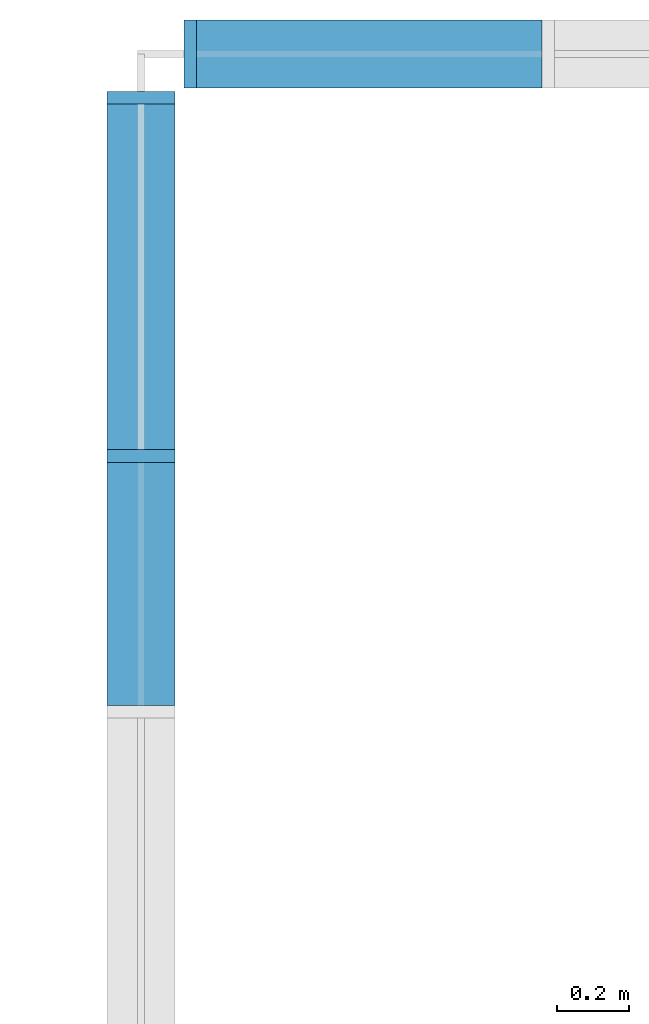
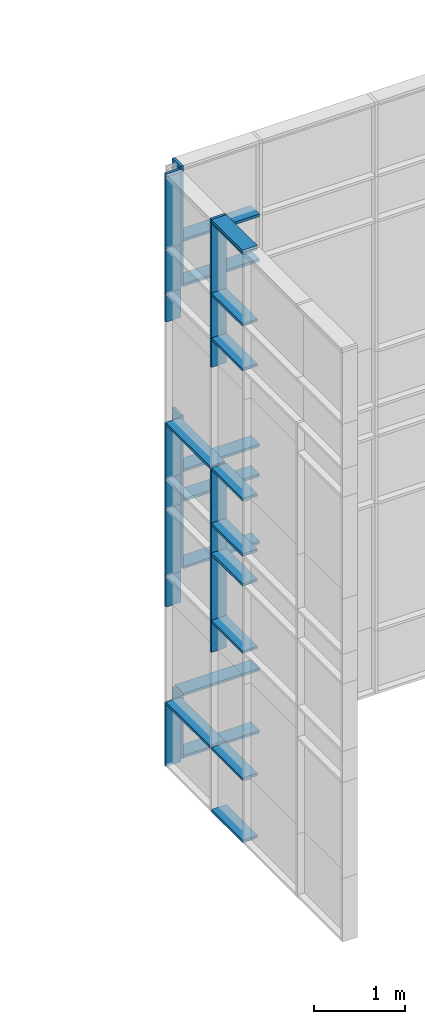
# One storey, part 19 of 73: 43 members, 2 elements without a shape of their own.
"""IFC2X3 building model written with IfcOpenShell, lengths in millimetres."""

from ifc_helpers import new_model, entity, si_unit, converted_unit, derived_unit, direction, frame, origin, origin_2d_with_axis, place, context, subcontext, project, spatial, rectangle, extrude, source, transform, mapped, material, type_object, type_shapes, element, aggregate, save


model = new_model("IFC2X3")

# Units and contexts
model_context = context("Model", 3, precision=0.01, world=origin(), true_north=direction((6.12303176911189e-17, 1.0)))
body_context = subcontext(model_context, "Body", "Model", "MODEL_VIEW")
ifc_project = project(units=[si_unit("LENGTHUNIT", "METRE", prefix="MILLI"), si_unit("AREAUNIT", "SQUARE_METRE"), si_unit("VOLUMEUNIT", "CUBIC_METRE"), converted_unit("PLANEANGLEUNIT", "DEGREE", entity("IfcRatioMeasure", 0.0174532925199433), si_unit("PLANEANGLEUNIT", "RADIAN"), dimensions=[0, 0, 0, 0, 0, 0, 0]), si_unit("MASSUNIT", "GRAM", prefix="KILO"), derived_unit("MASSDENSITYUNIT", [(si_unit("MASSUNIT", "GRAM", prefix="KILO"), 1), (si_unit("LENGTHUNIT", "METRE"), -3)]), si_unit("TIMEUNIT", "SECOND"), si_unit("FREQUENCYUNIT", "HERTZ"), si_unit("THERMODYNAMICTEMPERATUREUNIT", "DEGREE_CELSIUS"), derived_unit("THERMALTRANSMITTANCEUNIT", [(si_unit("MASSUNIT", "GRAM", prefix="KILO"), 1), (si_unit("THERMODYNAMICTEMPERATUREUNIT", "KELVIN"), -1), (si_unit("TIMEUNIT", "SECOND"), -3)]), derived_unit("VOLUMETRICFLOWRATEUNIT", [(si_unit("LENGTHUNIT", "METRE"), 3), (si_unit("TIMEUNIT", "SECOND"), -1)]), si_unit("ELECTRICCURRENTUNIT", "AMPERE"), si_unit("ELECTRICVOLTAGEUNIT", "VOLT"), si_unit("POWERUNIT", "WATT"), si_unit("FORCEUNIT", "NEWTON", prefix="KILO"), si_unit("ILLUMINANCEUNIT", "LUX"), si_unit("LUMINOUSFLUXUNIT", "LUMEN"), si_unit("LUMINOUSINTENSITYUNIT", "CANDELA"), derived_unit("USERDEFINED", [(si_unit("MASSUNIT", "GRAM", prefix="KILO"), -1), (si_unit("LENGTHUNIT", "METRE"), -2), (si_unit("TIMEUNIT", "SECOND"), 3), (si_unit("LUMINOUSFLUXUNIT", "LUMEN"), 1)]), derived_unit("LINEARVELOCITYUNIT", [(si_unit("LENGTHUNIT", "METRE"), 1), (si_unit("TIMEUNIT", "SECOND"), -1)]), si_unit("PRESSUREUNIT", "PASCAL"), derived_unit("USERDEFINED", [(si_unit("LENGTHUNIT", "METRE"), -2), (si_unit("MASSUNIT", "GRAM", prefix="KILO"), 1), (si_unit("TIMEUNIT", "SECOND"), -2)])], contexts=[model_context])

# Site, building, storey
site_placement = place(None, frame((-151.875543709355, 2715.0, 0.0)))
site = spatial("IfcSite", under=ifc_project, at=site_placement, Name="Surface", CompositionType="ELEMENT")
building_placement = place(site_placement, origin())
building = spatial("IfcBuilding", under=site, at=building_placement, CompositionType="ELEMENT")
storey_placement = place(building_placement, frame((0.0, 0.0, 6730.43000000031)))
storey = spatial("IfcBuildingStorey", under=building, at=storey_placement, Name="3 korrus", CompositionType="ELEMENT", Elevation=6730.43000000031)

# Curtain wall, members
curtain_wall_type = type_object("IfcCurtainWallType", Name="Curtain Wall:Klaasfassaad2", PredefinedType="NOTDEFINED")
curtain_wall_1_placement = place(storey_placement, frame((0.0, 0.0, -6730.43000000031)))
curtain_wall_1 = element("IfcCurtainWall", 1, at=curtain_wall_1_placement, inside=storey, type_object=curtain_wall_type, Name="Curtain Wall:Klaasfassaad2", ObjectType="Curtain Wall:Klaasfassaad2")
ifc_material = material(Name="Steel/Aluminium")
member_type_1 = type_object("IfcMemberType", Name="35 x 190mm", PredefinedType="MEMBER")
shared_shape_1 = source(origin(), body_context, "Body", "SweptSolid", [
    extrude(rectangle(XDim=190.0, YDim=35.0, at=origin_2d_with_axis()), frame((-17.5, 0.0, -965.0), z_axis=(0.0, 0.0, 1.0), x_axis=(0.0, -1.0, 0.0)), (0.0, 0.0, 1.0), 964.999999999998),
])
type_shapes(member_type_1, [shared_shape_1])
member_1_placement = place(storey_placement, frame((32827.1162682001, 26624.0, -2856.00226032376), z_axis=(1.0, 0.0, 0.0), x_axis=(0.0, 0.0, -1.0)))
member_1 = element("IfcMember", 2, at=member_1_placement, type_object=member_type_1, material=ifc_material, Name="Rectangular Mullion:35 x 190mm", ObjectType="35 x 190mm", context=body_context, shape_type="MappedRepresentation", body=[
    mapped(shared_shape_1, transform((0.0, 0.0, 0.0), scale=1.0)),
])
member_type_2 = type_object("IfcMemberType", Name="35 x 190mm", PredefinedType="MEMBER")
shared_shape_2 = source(origin(), body_context, "Body", "SweptSolid", [
    extrude(rectangle(XDim=190.0, YDim=35.0, at=origin_2d_with_axis()), frame((0.0, 0.0, -965.0), z_axis=(0.0, 0.0, 1.0), x_axis=(0.0, -1.0, 0.0)), (0.0, 0.0, 1.0), 964.999999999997),
])
type_shapes(member_type_2, [shared_shape_2])
member_2_placement = place(storey_placement, frame((31862.1162682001, 26624.0, 4074.47692901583), z_axis=(-1.0, 0.0, 0.0), x_axis=(0.0, 0.0, 1.0)))
member_2 = element("IfcMember", 3, at=member_2_placement, type_object=member_type_2, material=ifc_material, Name="Rectangular Mullion:35 x 190mm", ObjectType="35 x 190mm", context=body_context, shape_type="MappedRepresentation", body=[
    mapped(shared_shape_2, transform((0.0, 0.0, 0.0), scale=1.0)),
])
member_type_3 = type_object("IfcMemberType", Name="35 x 190mm", PredefinedType="MEMBER")
shared_shape_3 = source(origin(), body_context, "Body", "SweptSolid", [
    extrude(rectangle(XDim=190.0, YDim=35.0, at=origin_2d_with_axis()), frame((0.0, 0.0, -965.0), z_axis=(0.0, 0.0, 1.0), x_axis=(0.0, -1.0, 0.0)), (0.0, 0.0, 1.0), 964.999999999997),
])
type_shapes(member_type_3, [shared_shape_3])
member_3_placement = place(storey_placement, frame((31862.1162682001, 26624.0, 3474.47692901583), z_axis=(-1.0, 0.0, 0.0), x_axis=(0.0, 0.0, 1.0)))
member_3 = element("IfcMember", 4, at=member_3_placement, type_object=member_type_3, material=ifc_material, Name="Rectangular Mullion:35 x 190mm", ObjectType="35 x 190mm", context=body_context, shape_type="MappedRepresentation", body=[
    mapped(shared_shape_3, transform((0.0, 0.0, 0.0), scale=1.0)),
])
member_type_4 = type_object("IfcMemberType", Name="35 x 190mm", PredefinedType="MEMBER")
shared_shape_4 = source(origin(), body_context, "Body", "SweptSolid", [
    extrude(rectangle(XDim=190.0, YDim=35.0, at=origin_2d_with_axis()), frame((0.0, 0.0, -965.0), z_axis=(0.0, 0.0, 1.0), x_axis=(0.0, -1.0, 0.0)), (0.0, 0.0, 1.0), 964.999999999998),
])
type_shapes(member_type_4, [shared_shape_4])
member_4_placement = place(storey_placement, frame((31862.1162682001, 26624.0, 994.476929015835), z_axis=(-1.0, 0.0, 0.0), x_axis=(0.0, 0.0, 1.0)))
member_4 = element("IfcMember", 5, at=member_4_placement, type_object=member_type_4, material=ifc_material, Name="Rectangular Mullion:35 x 190mm", ObjectType="35 x 190mm", context=body_context, shape_type="MappedRepresentation", body=[
    mapped(shared_shape_4, transform((0.0, 0.0, 0.0), scale=1.0)),
])
member_type_5 = type_object("IfcMemberType", Name="35 x 190mm", PredefinedType="MEMBER")
shared_shape_5 = source(origin(), body_context, "Body", "SweptSolid", [
    extrude(rectangle(XDim=190.0, YDim=35.0, at=origin_2d_with_axis()), frame((0.0, 0.0, -965.0), z_axis=(0.0, 0.0, 1.0), x_axis=(0.0, -1.0, 0.0)), (0.0, 0.0, 1.0), 964.999999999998),
])
type_shapes(member_type_5, [shared_shape_5])
member_5_placement = place(storey_placement, frame((31862.1162682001, 26624.0, 594.476929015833), z_axis=(-1.0, 0.0, 0.0), x_axis=(0.0, 0.0, 1.0)))
member_5 = element("IfcMember", 6, at=member_5_placement, type_object=member_type_5, material=ifc_material, Name="Rectangular Mullion:35 x 190mm", ObjectType="35 x 190mm", context=body_context, shape_type="MappedRepresentation", body=[
    mapped(shared_shape_5, transform((0.0, 0.0, 0.0), scale=1.0)),
])
member_type_6 = type_object("IfcMemberType", Name="35 x 190mm", PredefinedType="MEMBER")
shared_shape_6 = source(origin(), body_context, "Body", "SweptSolid", [
    extrude(rectangle(XDim=190.0, YDim=35.0, at=origin_2d_with_axis()), frame((0.0, 0.0, -965.0), z_axis=(0.0, 0.0, 1.0), x_axis=(0.0, -1.0, 0.0)), (0.0, 0.0, 1.0), 964.999999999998),
])
type_shapes(member_type_6, [shared_shape_6])
member_6_placement = place(storey_placement, frame((31862.1162682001, 26624.0, -305.523070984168), z_axis=(-1.0, 0.0, 0.0), x_axis=(0.0, 0.0, 1.0)))
member_6 = element("IfcMember", 7, at=member_6_placement, type_object=member_type_6, material=ifc_material, Name="Rectangular Mullion:35 x 190mm", ObjectType="35 x 190mm", context=body_context, shape_type="MappedRepresentation", body=[
    mapped(shared_shape_6, transform((0.0, 0.0, 0.0), scale=1.0)),
])
member_type_7 = type_object("IfcMemberType", Name="35 x 190mm", PredefinedType="MEMBER")
shared_shape_7 = source(origin(), body_context, "Body", "SweptSolid", [
    extrude(rectangle(XDim=190.0, YDim=35.0, at=origin_2d_with_axis()), frame((0.0, 0.0, -965.0), z_axis=(0.0, 0.0, 1.0), x_axis=(0.0, -1.0, 0.0)), (0.0, 0.0, 1.0), 964.999999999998),
])
type_shapes(member_type_7, [shared_shape_7])
member_7_placement = place(storey_placement, frame((31862.1162682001, 26624.0, -2005.8425305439), z_axis=(-1.0, 0.0, 0.0), x_axis=(0.0, 0.0, 1.0)))
member_7 = element("IfcMember", 8, at=member_7_placement, type_object=member_type_7, material=ifc_material, Name="Rectangular Mullion:35 x 190mm", ObjectType="35 x 190mm", context=body_context, shape_type="MappedRepresentation", body=[
    mapped(shared_shape_7, transform((0.0, 0.0, 0.0), scale=1.0)),
])
member_type_8 = type_object("IfcMemberType", Name="35 x 190mm", PredefinedType="MEMBER")
shared_shape_8 = source(origin(), body_context, "Body", "SweptSolid", [
    extrude(rectangle(XDim=190.0, YDim=35.0, at=origin_2d_with_axis()), frame((0.0, 0.0, -850.159729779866), z_axis=(0.0, 0.0, 1.0), x_axis=(0.0, -1.0, 0.0)), (0.0, 0.0, 1.0), 850.159729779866),
])
type_shapes(member_type_8, [shared_shape_8])
member_8_placement = place(storey_placement, frame((31844.6162682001, 26624.0, -2856.00226032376), z_axis=(0.0, 0.0, -1.0), x_axis=(-1.0, 0.0, 0.0)))
member_8 = element("IfcMember", 9, at=member_8_placement, type_object=member_type_8, material=ifc_material, Name="Rectangular Mullion:35 x 190mm", ObjectType="35 x 190mm", context=body_context, shape_type="MappedRepresentation", body=[
    mapped(shared_shape_8, transform((0.0, 0.0, 0.0), scale=1.0)),
])

# Curtain wall, member
curtain_wall_2_placement = place(storey_placement, frame((0.0, 0.0, -6730.43000000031)))
curtain_wall_2 = element("IfcCurtainWall", 10, at=curtain_wall_2_placement, inside=storey, type_object=curtain_wall_type, Name="Curtain Wall:Klaasfassaad2", ObjectType="Curtain Wall:Klaasfassaad2")
member_9_placement = place(storey_placement, frame((31707.6162682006, 26501.1813631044, -2856.00226032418), z_axis=(0.0, 0.0, -1.0), x_axis=(0.0, 1.0, 0.0)))
member_9 = element("IfcMember", 11, at=member_9_placement, type_object=member_type_8, material=ifc_material, Name="Rectangular Mullion:35 x 190mm", ObjectType="35 x 190mm", context=body_context, shape_type="MappedRepresentation", body=[
    mapped(shared_shape_8, transform((0.0, 0.0, 0.0), scale=1.0)),
])

# Member
member_type_9 = type_object("IfcMemberType", Name="35 x 190mm", PredefinedType="MEMBER")
shared_shape_9 = source(origin(), body_context, "Body", "SweptSolid", [
    extrude(rectangle(XDim=190.0, YDim=35.0, at=origin_2d_with_axis()), frame((0.0, 0.0, -960.0), z_axis=(0.0, 0.0, 1.0), x_axis=(0.0, -1.0, 0.0)), (0.0, 0.0, 1.0), 960.000000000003),
])
type_shapes(member_type_9, [shared_shape_9])
member_10_placement = place(storey_placement, frame((31844.6162682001, 26624.0, 4074.47692901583), z_axis=(0.0, 0.0, -1.0), x_axis=(-1.0, 0.0, 0.0)))
member_10 = element("IfcMember", 12, at=member_10_placement, type_object=member_type_9, material=ifc_material, Name="Rectangular Mullion:35 x 190mm", ObjectType="35 x 190mm", context=body_context, shape_type="MappedRepresentation", body=[
    mapped(shared_shape_9, transform((0.0, 0.0, 0.0), scale=1.0)),
])

member_11_placement = place(storey_placement, frame((31707.6162682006, 26501.1813631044, 4074.47692901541), z_axis=(0.0, 0.0, -1.0), x_axis=(0.0, 1.0, 0.0)))
member_11 = element("IfcMember", 13, at=member_11_placement, type_object=member_type_9, material=ifc_material, Name="Rectangular Mullion:35 x 190mm", ObjectType="35 x 190mm", context=body_context, shape_type="MappedRepresentation", body=[
    mapped(shared_shape_9, transform((0.0, 0.0, 0.0), scale=1.0)),
])

member_12_placement = place(storey_placement, frame((31707.6162682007, 25501.1813631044, 4074.47692901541), z_axis=(0.0, 0.0, -1.0), x_axis=(0.0, 1.0, 0.0)))
member_12 = element("IfcMember", 14, at=member_12_placement, type_object=member_type_9, material=ifc_material, Name="Rectangular Mullion:35 x 190mm", ObjectType="35 x 190mm", context=body_context, shape_type="MappedRepresentation", body=[
    mapped(shared_shape_9, transform((0.0, 0.0, 0.0), scale=1.0)),
])

member_type_10 = type_object("IfcMemberType", Name="35 x 190mm", PredefinedType="MEMBER")
shared_shape_10 = source(origin(), body_context, "Body", "SweptSolid", [
    extrude(rectangle(XDim=190.0, YDim=35.0, at=origin_2d_with_axis()), frame((0.0, 0.0, -600.0), z_axis=(0.0, 0.0, 1.0), x_axis=(0.0, -1.0, 0.0)), (0.0, 0.0, 1.0), 600.000000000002),
])
type_shapes(member_type_10, [shared_shape_10])
member_13_placement = place(storey_placement, frame((31844.6162682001, 26624.0, 3474.47692901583), z_axis=(0.0, 0.0, -1.0), x_axis=(-1.0, 0.0, 0.0)))
member_13 = element("IfcMember", 15, at=member_13_placement, type_object=member_type_10, material=ifc_material, Name="Rectangular Mullion:35 x 190mm", ObjectType="35 x 190mm", context=body_context, shape_type="MappedRepresentation", body=[
    mapped(shared_shape_10, transform((0.0, 0.0, 0.0), scale=1.0)),
])

member_14_placement = place(storey_placement, frame((31707.6162682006, 26501.1813631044, 3474.47692901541), z_axis=(0.0, 0.0, -1.0), x_axis=(0.0, 1.0, 0.0)))
member_14 = element("IfcMember", 16, at=member_14_placement, type_object=member_type_10, material=ifc_material, Name="Rectangular Mullion:35 x 190mm", ObjectType="35 x 190mm", context=body_context, shape_type="MappedRepresentation", body=[
    mapped(shared_shape_10, transform((0.0, 0.0, 0.0), scale=1.0)),
])

member_15_placement = place(storey_placement, frame((31707.6162682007, 25501.1813631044, 3474.47692901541), z_axis=(0.0, 0.0, -1.0), x_axis=(0.0, 1.0, 0.0)))
member_15 = element("IfcMember", 17, at=member_15_placement, type_object=member_type_10, material=ifc_material, Name="Rectangular Mullion:35 x 190mm", ObjectType="35 x 190mm", context=body_context, shape_type="MappedRepresentation", body=[
    mapped(shared_shape_10, transform((0.0, 0.0, 0.0), scale=1.0)),
])

member_type_11 = type_object("IfcMemberType", Name="35 x 190mm", PredefinedType="MEMBER")
shared_shape_11 = source(origin(), body_context, "Body", "SweptSolid", [
    extrude(rectangle(XDim=190.0, YDim=35.0, at=origin_2d_with_axis()), frame((0.0, 0.0, -740.0), z_axis=(0.0, 0.0, 1.0), x_axis=(0.0, -1.0, 0.0)), (0.0, 0.0, 1.0), 740.000000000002),
])
type_shapes(member_type_11, [shared_shape_11])
member_16_placement = place(storey_placement, frame((31844.6162682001, 26624.0, 994.476929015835), z_axis=(0.0, 0.0, -1.0), x_axis=(-1.0, 0.0, 0.0)))
member_16 = element("IfcMember", 18, at=member_16_placement, type_object=member_type_11, material=ifc_material, Name="Rectangular Mullion:35 x 190mm", ObjectType="35 x 190mm", context=body_context, shape_type="MappedRepresentation", body=[
    mapped(shared_shape_11, transform((0.0, 0.0, 0.0), scale=1.0)),
])

member_17_placement = place(storey_placement, frame((31707.6162682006, 26501.1813631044, 994.47692901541), z_axis=(0.0, 0.0, -1.0), x_axis=(0.0, 1.0, 0.0)))
member_17 = element("IfcMember", 19, at=member_17_placement, type_object=member_type_11, material=ifc_material, Name="Rectangular Mullion:35 x 190mm", ObjectType="35 x 190mm", context=body_context, shape_type="MappedRepresentation", body=[
    mapped(shared_shape_11, transform((0.0, 0.0, 0.0), scale=1.0)),
])

member_18_placement = place(storey_placement, frame((31707.6162682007, 25501.1813631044, 994.47692901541), z_axis=(0.0, 0.0, -1.0), x_axis=(0.0, 1.0, 0.0)))
member_18 = element("IfcMember", 20, at=member_18_placement, type_object=member_type_11, material=ifc_material, Name="Rectangular Mullion:35 x 190mm", ObjectType="35 x 190mm", context=body_context, shape_type="MappedRepresentation", body=[
    mapped(shared_shape_11, transform((0.0, 0.0, 0.0), scale=1.0)),
])

member_type_12 = type_object("IfcMemberType", Name="35 x 190mm", PredefinedType="MEMBER")
shared_shape_12 = source(origin(), body_context, "Body", "SweptSolid", [
    extrude(rectangle(XDim=190.0, YDim=35.0, at=origin_2d_with_axis()), frame((0.0, 0.0, -400.0), z_axis=(0.0, 0.0, 1.0), x_axis=(0.0, -1.0, 0.0)), (0.0, 0.0, 1.0), 400.0),
])
type_shapes(member_type_12, [shared_shape_12])
member_19_placement = place(storey_placement, frame((31844.6162682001, 26624.0, 594.476929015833), z_axis=(0.0, 0.0, -1.0), x_axis=(-1.0, 0.0, 0.0)))
member_19 = element("IfcMember", 21, at=member_19_placement, type_object=member_type_12, material=ifc_material, Name="Rectangular Mullion:35 x 190mm", ObjectType="35 x 190mm", context=body_context, shape_type="MappedRepresentation", body=[
    mapped(shared_shape_12, transform((0.0, 0.0, 0.0), scale=1.0)),
])

member_20_placement = place(storey_placement, frame((31707.6162682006, 26501.1813631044, 594.476929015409), z_axis=(0.0, 0.0, -1.0), x_axis=(0.0, 1.0, 0.0)))
member_20 = element("IfcMember", 22, at=member_20_placement, type_object=member_type_12, material=ifc_material, Name="Rectangular Mullion:35 x 190mm", ObjectType="35 x 190mm", context=body_context, shape_type="MappedRepresentation", body=[
    mapped(shared_shape_12, transform((0.0, 0.0, 0.0), scale=1.0)),
])

member_21_placement = place(storey_placement, frame((31707.6162682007, 25501.1813631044, 594.476929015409), z_axis=(0.0, 0.0, -1.0), x_axis=(0.0, 1.0, 0.0)))
member_21 = element("IfcMember", 23, at=member_21_placement, type_object=member_type_12, material=ifc_material, Name="Rectangular Mullion:35 x 190mm", ObjectType="35 x 190mm", context=body_context, shape_type="MappedRepresentation", body=[
    mapped(shared_shape_12, transform((0.0, 0.0, 0.0), scale=1.0)),
])

member_type_13 = type_object("IfcMemberType", Name="35 x 190mm", PredefinedType="MEMBER")
shared_shape_13 = source(origin(), body_context, "Body", "SweptSolid", [
    extrude(rectangle(XDim=190.0, YDim=35.0, at=origin_2d_with_axis()), frame((0.0, 0.0, -900.0), z_axis=(0.0, 0.0, 1.0), x_axis=(0.0, -1.0, 0.0)), (0.0, 0.0, 1.0), 900.000000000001),
])
type_shapes(member_type_13, [shared_shape_13])
member_22_placement = place(storey_placement, frame((31844.6162682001, 26624.0, -305.523070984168), z_axis=(0.0, 0.0, -1.0), x_axis=(-1.0, 0.0, 0.0)))
member_22 = element("IfcMember", 24, at=member_22_placement, type_object=member_type_13, material=ifc_material, Name="Rectangular Mullion:35 x 190mm", ObjectType="35 x 190mm", context=body_context, shape_type="MappedRepresentation", body=[
    mapped(shared_shape_13, transform((0.0, 0.0, 0.0), scale=1.0)),
])

member_23_placement = place(storey_placement, frame((31707.6162682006, 26501.1813631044, -305.523070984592), z_axis=(0.0, 0.0, -1.0), x_axis=(0.0, 1.0, 0.0)))
member_23 = element("IfcMember", 25, at=member_23_placement, type_object=member_type_13, material=ifc_material, Name="Rectangular Mullion:35 x 190mm", ObjectType="35 x 190mm", context=body_context, shape_type="MappedRepresentation", body=[
    mapped(shared_shape_13, transform((0.0, 0.0, 0.0), scale=1.0)),
])

member_24_placement = place(storey_placement, frame((31707.6162682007, 25501.1813631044, -305.523070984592), z_axis=(0.0, 0.0, -1.0), x_axis=(0.0, 1.0, 0.0)))
member_24 = element("IfcMember", 26, at=member_24_placement, type_object=member_type_13, material=ifc_material, Name="Rectangular Mullion:35 x 190mm", ObjectType="35 x 190mm", context=body_context, shape_type="MappedRepresentation", body=[
    mapped(shared_shape_13, transform((0.0, 0.0, 0.0), scale=1.0)),
])

member_type_14 = type_object("IfcMemberType", Name="35 x 190mm", PredefinedType="MEMBER")
shared_shape_14 = source(origin(), body_context, "Body", "SweptSolid", [
    extrude(rectangle(XDim=190.0, YDim=35.0, at=origin_2d_with_axis()), frame((0.0, 0.0, -40.0), z_axis=(0.0, 0.0, 1.0), x_axis=(0.0, -1.0, 0.0)), (0.0, 0.0, 1.0), 39.9999999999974),
])
type_shapes(member_type_14, [shared_shape_14])
member_25_placement = place(storey_placement, frame((31844.6162682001, 26624.0, 5034.47692901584), z_axis=(0.0, 0.0, -1.0), x_axis=(-1.0, 0.0, 0.0)))
member_25 = element("IfcMember", 27, at=member_25_placement, type_object=member_type_14, material=ifc_material, Name="Rectangular Mullion:35 x 190mm", ObjectType="35 x 190mm", context=body_context, shape_type="MappedRepresentation", body=[
    mapped(shared_shape_14, transform((0.0, 0.0, 0.0), scale=1.0)),
])

aggregate(curtain_wall_1, [member_1, member_2, member_3, member_4, member_5, member_6, member_7, member_8, member_10, member_13, member_16, member_19, member_22, member_25])

member_26_placement = place(storey_placement, frame((31707.6162682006, 26501.1813631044, 5034.47692901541), z_axis=(0.0, 0.0, -1.0), x_axis=(0.0, 1.0, 0.0)))
member_26 = element("IfcMember", 28, at=member_26_placement, type_object=member_type_14, material=ifc_material, Name="Rectangular Mullion:35 x 190mm", ObjectType="35 x 190mm", context=body_context, shape_type="MappedRepresentation", body=[
    mapped(shared_shape_14, transform((0.0, 0.0, 0.0), scale=1.0)),
])

member_27_placement = place(storey_placement, frame((31707.6162682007, 25501.1813631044, 5034.47692901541), z_axis=(0.0, 0.0, -1.0), x_axis=(0.0, 1.0, 0.0)))
member_27 = element("IfcMember", 29, at=member_27_placement, type_object=member_type_14, material=ifc_material, Name="Rectangular Mullion:35 x 190mm", ObjectType="35 x 190mm", context=body_context, shape_type="MappedRepresentation", body=[
    mapped(shared_shape_14, transform((0.0, 0.0, 0.0), scale=1.0)),
])

member_type_15 = type_object("IfcMemberType", Name="35 x 190mm", PredefinedType="MEMBER")
shared_shape_15 = source(origin(), body_context, "Body", "SweptSolid", [
    extrude(rectangle(XDim=190.0, YDim=35.0, at=origin_2d_with_axis()), frame((-17.5, 0.0, -680.0), z_axis=(0.0, 0.0, 1.0), x_axis=(0.0, -1.0, 0.0)), (0.0, 0.0, 1.0), 679.999999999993),
])
type_shapes(member_type_15, [shared_shape_15])
member_28_placement = place(storey_placement, frame((31707.6162682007, 25483.6813631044, 5074.47692901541), z_axis=(0.0, 1.0, 0.0), x_axis=(0.0, 0.0, 1.0)))
member_28 = element("IfcMember", 30, at=member_28_placement, type_object=member_type_15, material=ifc_material, Name="Rectangular Mullion:35 x 190mm", ObjectType="35 x 190mm", context=body_context, shape_type="MappedRepresentation", body=[
    mapped(shared_shape_15, transform((0.0, 0.0, 0.0), scale=1.0)),
])

member_type_16 = type_object("IfcMemberType", Name="35 x 190mm", PredefinedType="MEMBER")
shared_shape_16 = source(origin(), body_context, "Body", "SweptSolid", [
    extrude(rectangle(XDim=190.0, YDim=35.0, at=origin_2d_with_axis()), frame((-17.5, 0.0, -680.0), z_axis=(0.0, 0.0, 1.0), x_axis=(0.0, -1.0, 0.0)), (0.0, 0.0, 1.0), 679.999999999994),
])
type_shapes(member_type_16, [shared_shape_16])
member_29_placement = place(storey_placement, frame((31707.6162682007, 24803.6813631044, -2856.00226032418), z_axis=(0.0, -1.0, 0.0), x_axis=(0.0, 0.0, -1.0)))
member_29 = element("IfcMember", 31, at=member_29_placement, type_object=member_type_16, material=ifc_material, Name="Rectangular Mullion:35 x 190mm", ObjectType="35 x 190mm", context=body_context, shape_type="MappedRepresentation", body=[
    mapped(shared_shape_16, transform((0.0, 0.0, 0.0), scale=1.0)),
])

member_type_17 = type_object("IfcMemberType", Name="35 x 190mm", PredefinedType="MEMBER")
shared_shape_17 = source(origin(), body_context, "Body", "SweptSolid", [
    extrude(rectangle(XDim=190.0, YDim=35.0, at=origin_2d_with_axis()), frame((0.0, 0.0, -415.479189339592), z_axis=(0.0, 0.0, 1.0), x_axis=(0.0, -1.0, 0.0)), (0.0, 0.0, 1.0), 415.479189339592),
])
type_shapes(member_type_17, [shared_shape_17])
member_30_placement = place(storey_placement, frame((31707.6162682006, 26501.1813631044, -721.002260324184), z_axis=(0.0, 0.0, -1.0), x_axis=(0.0, 1.0, 0.0)))
member_30 = element("IfcMember", 32, at=member_30_placement, type_object=member_type_17, material=ifc_material, Name="Rectangular Mullion:35 x 190mm", ObjectType="35 x 190mm", context=body_context, shape_type="MappedRepresentation", body=[
    mapped(shared_shape_17, transform((0.0, 0.0, 0.0), scale=1.0)),
])

member_31_placement = place(storey_placement, frame((31707.6162682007, 25501.1813631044, -721.002260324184), z_axis=(0.0, 0.0, -1.0), x_axis=(0.0, 1.0, 0.0)))
member_31 = element("IfcMember", 33, at=member_31_placement, type_object=member_type_17, material=ifc_material, Name="Rectangular Mullion:35 x 190mm", ObjectType="35 x 190mm", context=body_context, shape_type="MappedRepresentation", body=[
    mapped(shared_shape_17, transform((0.0, 0.0, 0.0), scale=1.0)),
])

member_type_18 = type_object("IfcMemberType", Name="35 x 190mm", PredefinedType="MEMBER")
shared_shape_18 = source(origin(), body_context, "Body", "SweptSolid", [
    extrude(rectangle(XDim=190.0, YDim=35.0, at=origin_2d_with_axis()), frame((0.0, 0.0, -380.0), z_axis=(0.0, 0.0, 1.0), x_axis=(0.0, -1.0, 0.0)), (0.0, 0.0, 1.0), 380.0),
])
type_shapes(member_type_18, [shared_shape_18])
member_32_placement = place(storey_placement, frame((31707.6162682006, 26501.1813631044, 3094.47692901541), z_axis=(0.0, 0.0, -1.0), x_axis=(0.0, 1.0, 0.0)))
member_32 = element("IfcMember", 34, at=member_32_placement, type_object=member_type_18, material=ifc_material, Name="Rectangular Mullion:35 x 190mm", ObjectType="35 x 190mm", context=body_context, shape_type="MappedRepresentation", body=[
    mapped(shared_shape_18, transform((0.0, 0.0, 0.0), scale=1.0)),
])

member_33_placement = place(storey_placement, frame((31707.6162682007, 25501.1813631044, 3094.47692901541), z_axis=(0.0, 0.0, -1.0), x_axis=(0.0, 1.0, 0.0)))
member_33 = element("IfcMember", 35, at=member_33_placement, type_object=member_type_18, material=ifc_material, Name="Rectangular Mullion:35 x 190mm", ObjectType="35 x 190mm", context=body_context, shape_type="MappedRepresentation", body=[
    mapped(shared_shape_18, transform((0.0, 0.0, 0.0), scale=1.0)),
])

member_type_19 = type_object("IfcMemberType", Name="35 x 190mm", PredefinedType="MEMBER")
shared_shape_19 = source(origin(), body_context, "Body", "SweptSolid", [
    extrude(rectangle(XDim=190.0, YDim=35.0, at=origin_2d_with_axis()), frame((0.0, 0.0, -680.0), z_axis=(0.0, 0.0, 1.0), x_axis=(0.0, -1.0, 0.0)), (0.0, 0.0, 1.0), 679.999999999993),
])
type_shapes(member_type_19, [shared_shape_19])
member_34_placement = place(storey_placement, frame((31707.6162682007, 25483.6813631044, 4074.47692901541), z_axis=(0.0, 1.0, 0.0), x_axis=(0.0, 0.0, 1.0)))
member_34 = element("IfcMember", 36, at=member_34_placement, type_object=member_type_19, material=ifc_material, Name="Rectangular Mullion:35 x 190mm", ObjectType="35 x 190mm", context=body_context, shape_type="MappedRepresentation", body=[
    mapped(shared_shape_19, transform((0.0, 0.0, 0.0), scale=1.0)),
])

member_type_20 = type_object("IfcMemberType", Name="35 x 190mm", PredefinedType="MEMBER")
shared_shape_20 = source(origin(), body_context, "Body", "SweptSolid", [
    extrude(rectangle(XDim=190.0, YDim=35.0, at=origin_2d_with_axis()), frame((0.0, 0.0, -680.0), z_axis=(0.0, 0.0, 1.0), x_axis=(0.0, -1.0, 0.0)), (0.0, 0.0, 1.0), 679.999999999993),
])
type_shapes(member_type_20, [shared_shape_20])
member_35_placement = place(storey_placement, frame((31707.6162682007, 25483.6813631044, 3474.47692901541), z_axis=(0.0, 1.0, 0.0), x_axis=(0.0, 0.0, 1.0)))
member_35 = element("IfcMember", 37, at=member_35_placement, type_object=member_type_20, material=ifc_material, Name="Rectangular Mullion:35 x 190mm", ObjectType="35 x 190mm", context=body_context, shape_type="MappedRepresentation", body=[
    mapped(shared_shape_20, transform((0.0, 0.0, 0.0), scale=1.0)),
])

member_type_21 = type_object("IfcMemberType", Name="35 x 190mm", PredefinedType="MEMBER")
shared_shape_21 = source(origin(), body_context, "Body", "SweptSolid", [
    extrude(rectangle(XDim=190.0, YDim=35.0, at=origin_2d_with_axis()), frame((0.0, 0.0, -680.0), z_axis=(0.0, 0.0, 1.0), x_axis=(0.0, -1.0, 0.0)), (0.0, 0.0, 1.0), 679.999999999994),
])
type_shapes(member_type_21, [shared_shape_21])
member_36_placement = place(storey_placement, frame((31707.6162682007, 25483.6813631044, 994.47692901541), z_axis=(0.0, 1.0, 0.0), x_axis=(0.0, 0.0, 1.0)))
member_36 = element("IfcMember", 38, at=member_36_placement, type_object=member_type_21, material=ifc_material, Name="Rectangular Mullion:35 x 190mm", ObjectType="35 x 190mm", context=body_context, shape_type="MappedRepresentation", body=[
    mapped(shared_shape_21, transform((0.0, 0.0, 0.0), scale=1.0)),
])

member_type_22 = type_object("IfcMemberType", Name="35 x 190mm", PredefinedType="MEMBER")
shared_shape_22 = source(origin(), body_context, "Body", "SweptSolid", [
    extrude(rectangle(XDim=190.0, YDim=35.0, at=origin_2d_with_axis()), frame((0.0, 0.0, -680.0), z_axis=(0.0, 0.0, 1.0), x_axis=(0.0, -1.0, 0.0)), (0.0, 0.0, 1.0), 679.999999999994),
])
type_shapes(member_type_22, [shared_shape_22])
member_37_placement = place(storey_placement, frame((31707.6162682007, 25483.6813631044, 594.476929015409), z_axis=(0.0, 1.0, 0.0), x_axis=(0.0, 0.0, 1.0)))
member_37 = element("IfcMember", 39, at=member_37_placement, type_object=member_type_22, material=ifc_material, Name="Rectangular Mullion:35 x 190mm", ObjectType="35 x 190mm", context=body_context, shape_type="MappedRepresentation", body=[
    mapped(shared_shape_22, transform((0.0, 0.0, 0.0), scale=1.0)),
])

member_type_23 = type_object("IfcMemberType", Name="35 x 190mm", PredefinedType="MEMBER")
shared_shape_23 = source(origin(), body_context, "Body", "SweptSolid", [
    extrude(rectangle(XDim=190.0, YDim=35.0, at=origin_2d_with_axis()), frame((0.0, 0.0, -680.0), z_axis=(0.0, 0.0, 1.0), x_axis=(0.0, -1.0, 0.0)), (0.0, 0.0, 1.0), 679.999999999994),
])
type_shapes(member_type_23, [shared_shape_23])
member_38_placement = place(storey_placement, frame((31707.6162682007, 25483.6813631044, -305.523070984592), z_axis=(0.0, 1.0, 0.0), x_axis=(0.0, 0.0, 1.0)))
member_38 = element("IfcMember", 40, at=member_38_placement, type_object=member_type_23, material=ifc_material, Name="Rectangular Mullion:35 x 190mm", ObjectType="35 x 190mm", context=body_context, shape_type="MappedRepresentation", body=[
    mapped(shared_shape_23, transform((0.0, 0.0, 0.0), scale=1.0)),
])

member_type_24 = type_object("IfcMemberType", Name="35 x 190mm", PredefinedType="MEMBER")
shared_shape_24 = source(origin(), body_context, "Body", "SweptSolid", [
    extrude(rectangle(XDim=190.0, YDim=35.0, at=origin_2d_with_axis()), frame((0.0, 0.0, -680.0), z_axis=(0.0, 0.0, 1.0), x_axis=(0.0, -1.0, 0.0)), (0.0, 0.0, 1.0), 679.999999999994),
])
type_shapes(member_type_24, [shared_shape_24])
member_39_placement = place(storey_placement, frame((31707.6162682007, 25483.6813631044, 1734.47692901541), z_axis=(0.0, 1.0, 0.0), x_axis=(0.0, 0.0, 1.0)))
member_39 = element("IfcMember", 41, at=member_39_placement, type_object=member_type_24, material=ifc_material, Name="Rectangular Mullion:35 x 190mm", ObjectType="35 x 190mm", context=body_context, shape_type="MappedRepresentation", body=[
    mapped(shared_shape_24, transform((0.0, 0.0, 0.0), scale=1.0)),
])

member_type_25 = type_object("IfcMemberType", Name="35 x 190mm", PredefinedType="MEMBER")
shared_shape_25 = source(origin(), body_context, "Body", "SweptSolid", [
    extrude(rectangle(XDim=190.0, YDim=35.0, at=origin_2d_with_axis()), frame((0.0, 0.0, -680.0), z_axis=(0.0, 0.0, 1.0), x_axis=(0.0, -1.0, 0.0)), (0.0, 0.0, 1.0), 679.999999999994),
])
type_shapes(member_type_25, [shared_shape_25])
member_40_placement = place(storey_placement, frame((31707.6162682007, 25483.6813631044, -2005.84253054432), z_axis=(0.0, 1.0, 0.0), x_axis=(0.0, 0.0, 1.0)))
member_40 = element("IfcMember", 42, at=member_40_placement, type_object=member_type_25, material=ifc_material, Name="Rectangular Mullion:35 x 190mm", ObjectType="35 x 190mm", context=body_context, shape_type="MappedRepresentation", body=[
    mapped(shared_shape_25, transform((0.0, 0.0, 0.0), scale=1.0)),
])

member_type_26 = type_object("IfcMemberType", Name="35 x 190mm", PredefinedType="MEMBER")
shared_shape_26 = source(origin(), body_context, "Body", "SweptSolid", [
    extrude(rectangle(XDim=190.0, YDim=35.0, at=origin_2d_with_axis()), frame((0.0, 0.0, -680.0), z_axis=(0.0, 0.0, 1.0), x_axis=(0.0, -1.0, 0.0)), (0.0, 0.0, 1.0), 679.999999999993),
])
type_shapes(member_type_26, [shared_shape_26])
member_41_placement = place(storey_placement, frame((31707.6162682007, 25483.6813631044, 5034.47692901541), z_axis=(0.0, 1.0, 0.0), x_axis=(0.0, 0.0, 1.0)))
member_41 = element("IfcMember", 43, at=member_41_placement, type_object=member_type_26, material=ifc_material, Name="Rectangular Mullion:35 x 190mm", ObjectType="35 x 190mm", context=body_context, shape_type="MappedRepresentation", body=[
    mapped(shared_shape_26, transform((0.0, 0.0, 0.0), scale=1.0)),
])

member_type_27 = type_object("IfcMemberType", Name="35 x 190mm", PredefinedType="MEMBER")
shared_shape_27 = source(origin(), body_context, "Body", "SweptSolid", [
    extrude(rectangle(XDim=190.0, YDim=35.0, at=origin_2d_with_axis()), frame((0.0, 0.0, -965.0), z_axis=(0.0, 0.0, 1.0), x_axis=(0.0, -1.0, 0.0)), (0.0, 0.0, 1.0), 964.999999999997),
])
type_shapes(member_type_27, [shared_shape_27])
member_42_placement = place(storey_placement, frame((31707.6162682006, 26483.6813631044, 1734.47692901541), z_axis=(0.0, 1.0, 0.0), x_axis=(0.0, 0.0, 1.0)))
member_42 = element("IfcMember", 44, at=member_42_placement, type_object=member_type_27, material=ifc_material, Name="Rectangular Mullion:35 x 190mm", ObjectType="35 x 190mm", context=body_context, shape_type="MappedRepresentation", body=[
    mapped(shared_shape_27, transform((0.0, 0.0, 0.0), scale=1.0)),
])

member_type_28 = type_object("IfcMemberType", Name="35 x 190mm", PredefinedType="MEMBER")
shared_shape_28 = source(origin(), body_context, "Body", "SweptSolid", [
    extrude(rectangle(XDim=190.0, YDim=35.0, at=origin_2d_with_axis()), frame((0.0, 0.0, -965.0), z_axis=(0.0, 0.0, 1.0), x_axis=(0.0, -1.0, 0.0)), (0.0, 0.0, 1.0), 964.999999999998),
])
type_shapes(member_type_28, [shared_shape_28])
member_43_placement = place(storey_placement, frame((31707.6162682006, 26483.6813631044, -2005.84253054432), z_axis=(0.0, 1.0, 0.0), x_axis=(0.0, 0.0, 1.0)))
member_43 = element("IfcMember", 45, at=member_43_placement, type_object=member_type_28, material=ifc_material, Name="Rectangular Mullion:35 x 190mm", ObjectType="35 x 190mm", context=body_context, shape_type="MappedRepresentation", body=[
    mapped(shared_shape_28, transform((0.0, 0.0, 0.0), scale=1.0)),
])

aggregate(curtain_wall_2, [member_9, member_28, member_11, member_14, member_17, member_20, member_23, member_26, member_12, member_15, member_18, member_21, member_24, member_27, member_29, member_30, member_31, member_32, member_34, member_35, member_36, member_37, member_38, member_39, member_40, member_41, member_33, member_42, member_43])

save(model, "model.ifc")
